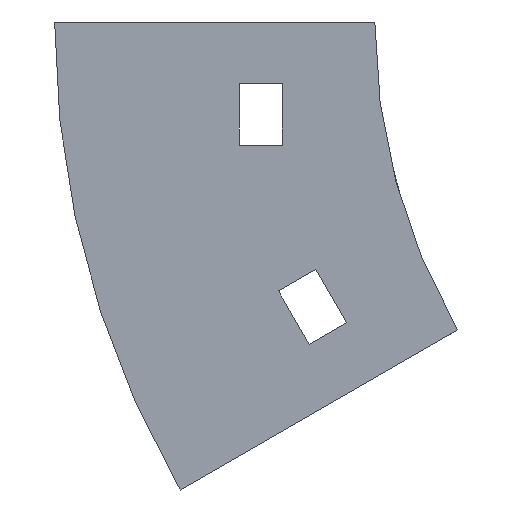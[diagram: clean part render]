
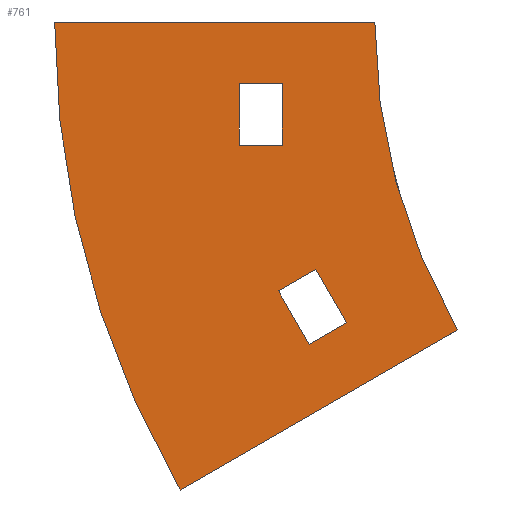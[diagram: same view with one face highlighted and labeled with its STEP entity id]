
A CAD part, left-side view. The second image highlights one B-rep face of the part: STEP entity #761.
In plain terms, the highlighted planar face has unit normal (-1, 0, 0).
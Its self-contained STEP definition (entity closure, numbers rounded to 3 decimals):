
#2 = DIRECTION ( 'NONE',  ( 0., 0., 1. ) ) ;
#3 = ORIENTED_EDGE ( 'NONE', *, *, #1040, .F. ) ;
#7 = CARTESIAN_POINT ( 'NONE',  ( -52., 9.593, -40.179 ) ) ;
#8 = CARTESIAN_POINT ( 'NONE',  ( -52., -13.397, -50. ) ) ;
#10 = FACE_BOUND ( 'NONE', #601, .T. ) ;
#20 = CARTESIAN_POINT ( 'NONE',  ( -52., 15., -10. ) ) ;
#23 = CARTESIAN_POINT ( 'NONE',  ( -52., 31.636, -76. ) ) ;
#33 = CARTESIAN_POINT ( 'NONE',  ( -52., 22., -20. ) ) ;
#39 = EDGE_LOOP ( 'NONE', ( #77, #571, #1081, #233 ) ) ;
#49 = VERTEX_POINT ( 'NONE', #943 ) ;
#60 = VERTEX_POINT ( 'NONE', #1023 ) ;
#68 = CARTESIAN_POINT ( 'NONE',  ( -52., 15.655, -43.679 ) ) ;
#77 = ORIENTED_EDGE ( 'NONE', *, *, #829, .F. ) ;
#80 = CARTESIAN_POINT ( 'NONE',  ( -52., 0., 0. ) ) ;
#82 = DIRECTION ( 'NONE',  ( 0., -1., 0. ) ) ;
#85 = VECTOR ( 'NONE', #82, 1000. ) ;
#86 = CARTESIAN_POINT ( 'NONE',  ( -52., -100., 0. ) ) ;
#93 = LINE ( 'NONE', #508, #128 ) ;
#98 = LINE ( 'NONE', #953, #347 ) ;
#100 = CARTESIAN_POINT ( 'NONE',  ( -52., 4.593, -48.84 ) ) ;
#104 = VERTEX_POINT ( 'NONE', #329 ) ;
#128 = VECTOR ( 'NONE', #2, 1000. ) ;
#212 = EDGE_CURVE ( 'NONE', #409, #60, #93, .T. ) ;
#217 = DIRECTION ( 'NONE',  ( 1., 0., 0. ) ) ;
#227 = CARTESIAN_POINT ( 'NONE',  ( -52., -100., 0. ) ) ;
#233 = ORIENTED_EDGE ( 'NONE', *, *, #1125, .F. ) ;
#238 = EDGE_CURVE ( 'NONE', #49, #104, #792, .T. ) ;
#251 = AXIS2_PLACEMENT_3D ( 'NONE', #805, #256, #1056 ) ;
#256 = DIRECTION ( 'NONE',  ( -1., 0., 0. ) ) ;
#272 = VERTEX_POINT ( 'NONE', #810 ) ;
#283 = PLANE ( 'NONE',  #251 ) ;
#284 = ORIENTED_EDGE ( 'NONE', *, *, #993, .F. ) ;
#288 = VERTEX_POINT ( 'NONE', #8 ) ;
#305 = CARTESIAN_POINT ( 'NONE',  ( -52., 52., 0. ) ) ;
#329 = CARTESIAN_POINT ( 'NONE',  ( -52., 4.593, -48.84 ) ) ;
#330 = VERTEX_POINT ( 'NONE', #20 ) ;
#347 = VECTOR ( 'NONE', #612, 1000. ) ;
#356 = CARTESIAN_POINT ( 'NONE',  ( -52., 10.655, -52.34 ) ) ;
#366 = CARTESIAN_POINT ( 'NONE',  ( -52., 15.655, -43.679 ) ) ;
#367 = EDGE_CURVE ( 'NONE', #272, #409, #645, .T. ) ;
#372 = FACE_OUTER_BOUND ( 'NONE', #39, .T. ) ;
#374 = VERTEX_POINT ( 'NONE', #23 ) ;
#393 = ORIENTED_EDGE ( 'NONE', *, *, #367, .T. ) ;
#405 = VECTOR ( 'NONE', #865, 1000. ) ;
#409 = VERTEX_POINT ( 'NONE', #33 ) ;
#415 = LINE ( 'NONE', #867, #959 ) ;
#421 = LINE ( 'NONE', #68, #812 ) ;
#432 = LINE ( 'NONE', #516, #980 ) ;
#438 = DIRECTION ( 'NONE',  ( 0., 0., 1. ) ) ;
#445 = VECTOR ( 'NONE', #1101, 1000. ) ;
#487 = AXIS2_PLACEMENT_3D ( 'NONE', #227, #217, #938 ) ;
#488 = EDGE_CURVE ( 'NONE', #330, #272, #98, .T. ) ;
#491 = VERTEX_POINT ( 'NONE', #7 ) ;
#492 = DIRECTION ( 'NONE',  ( 0., 0.866, -0.5 ) ) ;
#508 = CARTESIAN_POINT ( 'NONE',  ( -52., 22., -10. ) ) ;
#516 = CARTESIAN_POINT ( 'NONE',  ( -52., -13.397, -50. ) ) ;
#525 = ORIENTED_EDGE ( 'NONE', *, *, #570, .T. ) ;
#529 = AXIS2_PLACEMENT_3D ( 'NONE', #86, #616, #438 ) ;
#561 = VECTOR ( 'NONE', #567, 1000. ) ;
#567 = DIRECTION ( 'NONE',  ( 0., -1., 0. ) ) ;
#570 = EDGE_CURVE ( 'NONE', #60, #330, #802, .T. ) ;
#571 = ORIENTED_EDGE ( 'NONE', *, *, #1100, .F. ) ;
#586 = EDGE_CURVE ( 'NONE', #104, #491, #895, .T. ) ;
#594 = LINE ( 'NONE', #1136, #561 ) ;
#597 = ORIENTED_EDGE ( 'NONE', *, *, #488, .T. ) ;
#601 = EDGE_LOOP ( 'NONE', ( #525, #597, #393, #1055 ) ) ;
#607 = ORIENTED_EDGE ( 'NONE', *, *, #238, .F. ) ;
#612 = DIRECTION ( 'NONE',  ( 0., 0., -1. ) ) ;
#616 = DIRECTION ( 'NONE',  ( -1., 0., 0. ) ) ;
#619 = CIRCLE ( 'NONE', #487, 152. ) ;
#623 = FACE_BOUND ( 'NONE', #898, .T. ) ;
#645 = LINE ( 'NONE', #736, #445 ) ;
#665 = EDGE_CURVE ( 'NONE', #374, #886, #619, .T. ) ;
#736 = CARTESIAN_POINT ( 'NONE',  ( -52., 22., -20. ) ) ;
#754 = DIRECTION ( 'NONE',  ( 0., -0.5, -0.866 ) ) ;
#761 = ADVANCED_FACE ( 'NONE', ( #10, #372, #623 ), #283, .T. ) ;
#762 = VERTEX_POINT ( 'NONE', #80 ) ;
#783 = ORIENTED_EDGE ( 'NONE', *, *, #586, .F. ) ;
#792 = LINE ( 'NONE', #356, #405 ) ;
#802 = LINE ( 'NONE', #878, #85 ) ;
#805 = CARTESIAN_POINT ( 'NONE',  ( -52., -100., 0. ) ) ;
#809 = DIRECTION ( 'NONE',  ( 0., 0.5, 0.866 ) ) ;
#810 = CARTESIAN_POINT ( 'NONE',  ( -52., 15., -20. ) ) ;
#812 = VECTOR ( 'NONE', #492, 1000. ) ;
#829 = EDGE_CURVE ( 'NONE', #762, #288, #1030, .T. ) ;
#865 = DIRECTION ( 'NONE',  ( 0., -0.866, 0.5 ) ) ;
#867 = CARTESIAN_POINT ( 'NONE',  ( -52., 10.655, -52.34 ) ) ;
#878 = CARTESIAN_POINT ( 'NONE',  ( -52., 22., -10. ) ) ;
#886 = VERTEX_POINT ( 'NONE', #305 ) ;
#895 = LINE ( 'NONE', #100, #1088 ) ;
#898 = EDGE_LOOP ( 'NONE', ( #783, #607, #3, #284 ) ) ;
#938 = DIRECTION ( 'NONE',  ( 0., 0., 1. ) ) ;
#943 = CARTESIAN_POINT ( 'NONE',  ( -52., 10.655, -52.34 ) ) ;
#953 = CARTESIAN_POINT ( 'NONE',  ( -52., 15., -10. ) ) ;
#959 = VECTOR ( 'NONE', #754, 1000. ) ;
#980 = VECTOR ( 'NONE', #1147, 1000. ) ;
#993 = EDGE_CURVE ( 'NONE', #491, #1132, #421, .T. ) ;
#1023 = CARTESIAN_POINT ( 'NONE',  ( -52., 22., -10. ) ) ;
#1030 = CIRCLE ( 'NONE', #529, 100. ) ;
#1040 = EDGE_CURVE ( 'NONE', #1132, #49, #415, .T. ) ;
#1055 = ORIENTED_EDGE ( 'NONE', *, *, #212, .T. ) ;
#1056 = DIRECTION ( 'NONE',  ( 0., 0., 1. ) ) ;
#1081 = ORIENTED_EDGE ( 'NONE', *, *, #665, .F. ) ;
#1088 = VECTOR ( 'NONE', #809, 1000. ) ;
#1100 = EDGE_CURVE ( 'NONE', #886, #762, #594, .T. ) ;
#1101 = DIRECTION ( 'NONE',  ( 0., 1., 0. ) ) ;
#1125 = EDGE_CURVE ( 'NONE', #288, #374, #432, .T. ) ;
#1132 = VERTEX_POINT ( 'NONE', #366 ) ;
#1136 = CARTESIAN_POINT ( 'NONE',  ( -52., 52., 0. ) ) ;
#1147 = DIRECTION ( 'NONE',  ( 0., 0.866, -0.5 ) ) ;
